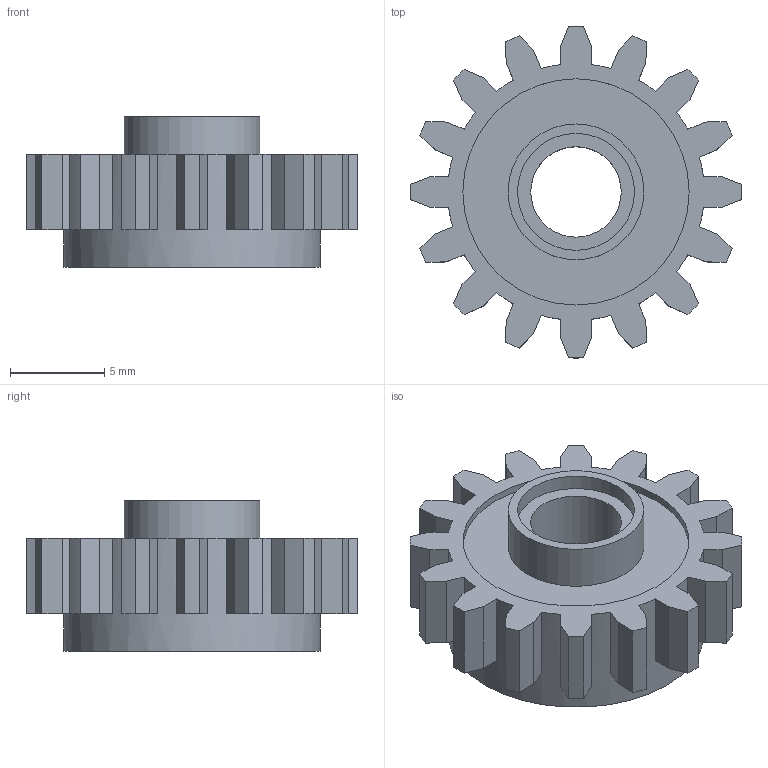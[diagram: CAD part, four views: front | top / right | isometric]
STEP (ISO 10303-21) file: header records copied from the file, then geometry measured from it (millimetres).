
FILE_DESCRIPTION(/* description */ ('Unknown'),/* implementation_level */ '2;1');
FILE_NAME(/* name */ 'Gray_4237267_JC',/* time_stamp */ '2025-07-21T23:58:43+02:00',/* author */ ('Unknown'),/* organization */ ('Unknown'),/* preprocessor_version */ 'ST-DEVELOPER v19.4',/* originating_system */ 'Solid Edge',/* authorisation */ 'Unknown');
FILE_SCHEMA (('AUTOMOTIVE_DESIGN {1 0 10303 214 3 1 1}'));
Length unit declared in the file: millimetre
Products named in the file (1): Gray_4237267_JC
Bounding box: 17.6 x 17.6 x 8 mm (x, y, z)
Volume: 566.5 mm3; surface area: 1298.2 mm2
Topology: 1 solids, 1 shells, 126 faces, 357 edges, 238 vertices
Faces by surface type: plane 103, cylinder 23
Full cylindrical faces by diameter (mm): 4.8 x1, 6.2 x1, 6.5 x1, 7.2 x1, 12 x2, 13.6 x1
Entity records: 4066 total; most frequent: CARTESIAN_POINT 711, ORIENTED_EDGE 696, DIRECTION 686, EDGE_CURVE 348, LINE 264, VECTOR 264, VERTEX_POINT 236, AXIS2_PLACEMENT_3D 211
